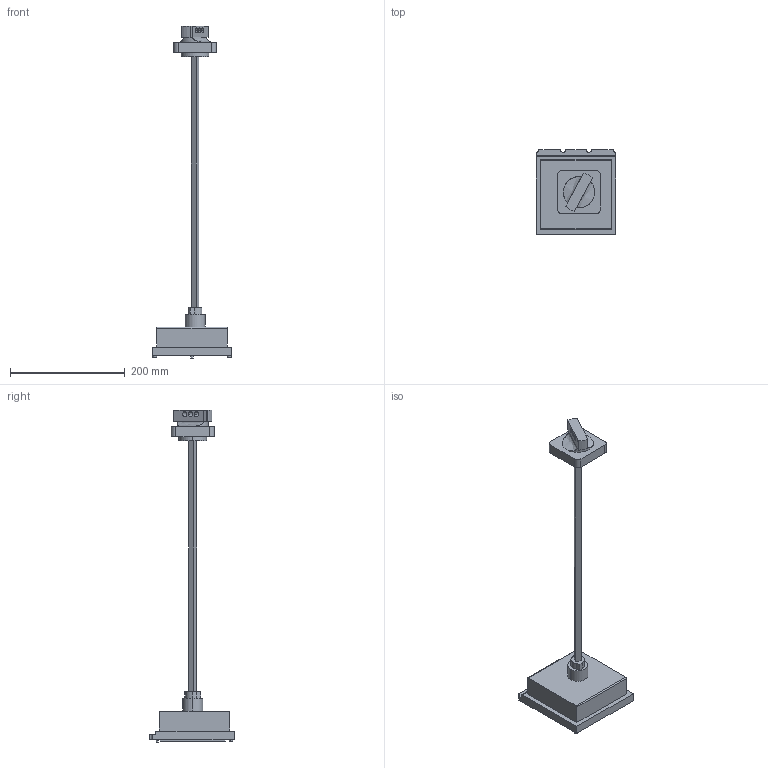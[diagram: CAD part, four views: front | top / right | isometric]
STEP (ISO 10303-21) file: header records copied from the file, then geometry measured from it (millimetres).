
FILE_DESCRIPTION (( 'STEP AP214' ), '1' );
FILE_NAME ('Ïðèâîä ðó÷íîé äèñòàíöèîííûé OptiMat D400, D630.STEP', '2023-05-01T14:26:09', ( '' ), ( '' ), 'SwSTEP 2.0', 'SolidWorks 2018', '' );
FILE_SCHEMA (( 'AUTOMOTIVE_DESIGN' ));
Length unit declared in the file: millimetre
Products named in the file (4): Ïðèâîä ðó÷íîé äèñòàíöèîííûé_‚ «; Ïðèâîä ðó÷íîé äèñòàíöèîííûé  OptiMat D400, D630; Ïðèâîä ðó÷íîé äèñòàíöèîííûé_Œãäâ ; 橡桠钿 痼黜铋 滂耱囗鲨铐睇開娻腓獱
Assembly tree (3 placements, depth 2):
  Ïðèâîä ðó÷íîé äèñòàíöèîííûé  OptiMat D400, D630
    橡桠钿 痼黜铋 滂耱囗鲨铐睇開娻腓獱
    Ïðèâîä ðó÷íîé äèñòàíöèîííûé_‚ «
    Ïðèâîä ðó÷íîé äèñòàíöèîííûé_Œãäâ 
Bounding box: 139.6 x 147.5 x 579.7 mm (x, y, z)
Volume: 1040232.3 mm3; surface area: 111696 mm2
Topology: 3 solids, 3 shells, 148 faces, 358 edges, 236 vertices
Faces by surface type: plane 100, cylinder 46, bspline 2
Entity records: 4621 total; most frequent: CARTESIAN_POINT 910, DIRECTION 748, ORIENTED_EDGE 716, EDGE_CURVE 358, LINE 262, VECTOR 262, AXIS2_PLACEMENT_3D 243, VERTEX_POINT 236
